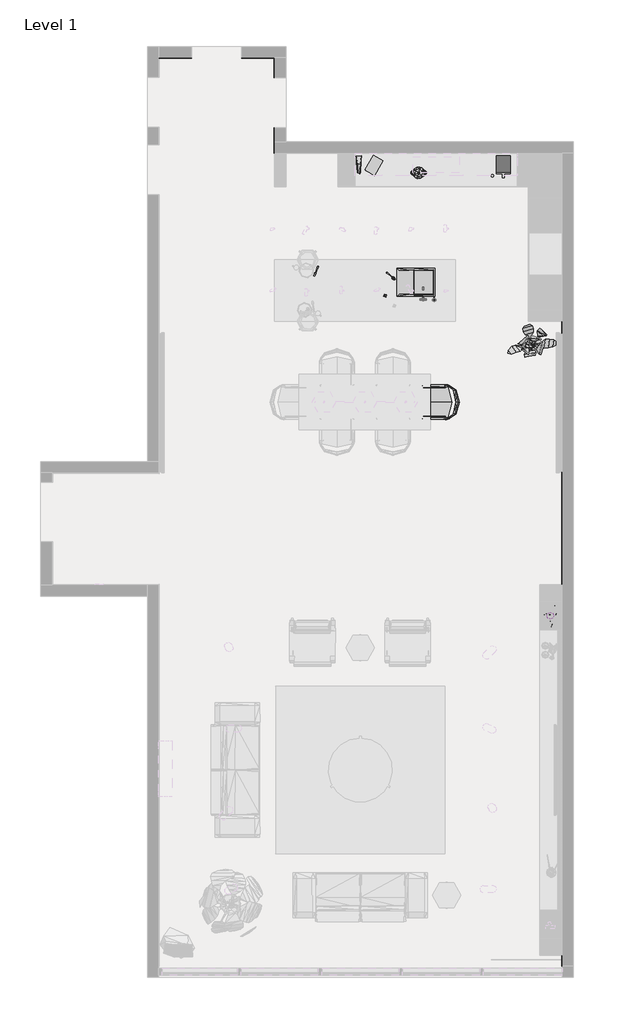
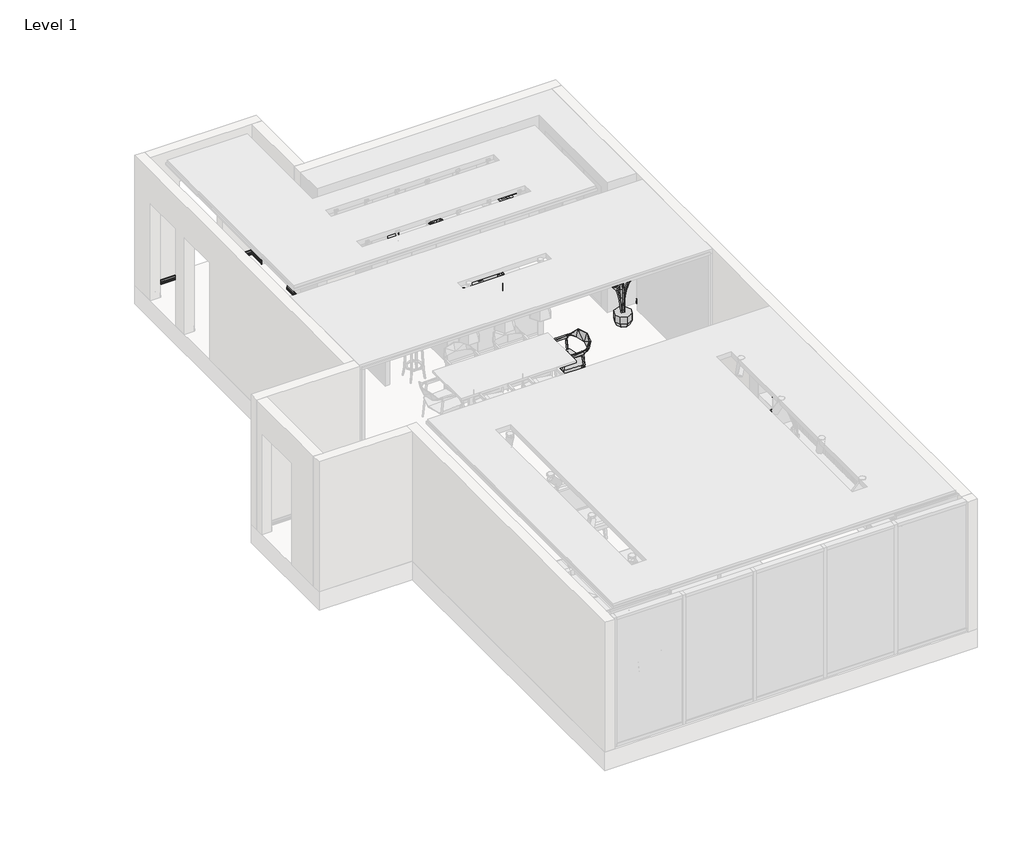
# One storey, part 4 of 4: 17 geographic elements, 3 proxies.
"""IFC4 building model written with IfcOpenShell, lengths in millimetres."""

from ifc_helpers import new_model, si_unit, point, frame, frame_2d, origin, place, context, project, spatial, polyline, circle_curve, ellipse_curve, trimmed, segment, composite_curve, outline, extrude, transform, mapped, element, save
from ifc_brep_helpers import plane_surface, cylinder_surface, revolved_surface, advanced_brep
from components import geographic_element_c0f8f7ac, geographic_element_f8921ec5, geographic_element_5908e057, geographic_element_9f73c0b1, geographic_element_5f6d6c8c, geographic_element_780d2d84, geographic_element_f51f05aa, geographic_element_e5fee6ec, enscape_assetdefinition_books_010_enscape_assetdefinition_d08a0240, enscape_assetdefinition_chair_005_enscape_assetdefinition_cb8def9a, enscape_assetdefinition_coffee_maker_007_enscape_659ea5d6, enscape_assetdefinition_cup_004_espresso_enscape_9e3265cb, enscape_assetdefinition_faucet_010_enscape_assetdefinition_639291e5, enscape_assetdefinition_kitchen_tool_002_cutting_boards_67aff8ed, enscape_assetdefinition_sink_001_enscape_assetdefinition_419a9225, enscape_assetdefinition_soap_dispenser_004_enscape_f50e4718, enscape_assetdefinition_vase_050_enscape_assetdefinition_a4bf4c07

model = new_model("IFC4")

# Units and contexts
model_context = context("Model", 3, world=origin())
ifc_project = project(units=[si_unit("LENGTHUNIT", "METRE", prefix="MILLI")], contexts=[model_context])

# Site, building, storey
site = spatial("IfcSite", under=ifc_project)
building = spatial("IfcBuilding", under=site)
storey = spatial("IfcBuildingStorey", under=building, Name="Level 1", Elevation=0.0)

# Proxies
placement = place(None, origin())
element("IfcBuildingElementProxy", 1, Name="Brick Soldier Course 2", ObjectType="Brick Soldier Course 2", at=placement, inside=storey, context=model_context, shape_type="SweptSolid", body=[
    extrude(outline(composite_curve([segment(polyline([(100.0, 10477.9525098), (100.0, 10476.9557823)]), True, "CONTINUOUS"), segment(trimmed(circle_curve(frame_2d((95.9967275, 10476.9557823)), 4.0032725), [point((100.0, 10476.9557823))], [point((95.9967275, 10472.9525098))], False, "CARTESIAN"), True, "CONTINUOUS"), segment(polyline([(95.9967275, 10472.9525098), (91.4365579, 10472.9525098)]), True, "CONTINUOUS"), segment(trimmed(circle_curve(frame_2d((91.4365579, 10474.3890677)), 1.4365579), [point((91.4365579, 10472.9525098))], [point((90.0, 10474.3890677))], False, "CARTESIAN"), True, "CONTINUOUS"), segment(polyline([(90.0, 10474.3890677), (90.0, 10475.4642363), (50.0, 10475.4642363), (50.0, 10471.9642363)]), True, "CONTINUOUS"), segment(trimmed(circle_curve(frame_2d((48.5, 10471.9642363)), 1.5), [point((50.0, 10471.9642363))], [point((48.5, 10470.4642363))], False, "CARTESIAN"), True, "CONTINUOUS"), segment(polyline([(48.5, 10470.4642363), (26.451226, 10470.4642363)]), True, "CONTINUOUS"), segment(trimmed(circle_curve(frame_2d((26.451226, 10471.9154623)), 1.451226), [point((26.451226, 10470.4642363))], [point((25.0, 10471.9154623))], False, "CARTESIAN"), True, "CONTINUOUS"), segment(polyline([(25.0, 10471.9154623), (25.0, 10472.9525098), (17.9313406, 10472.9525098), (17.9313406, 10471.6850055)]), True, "CONTINUOUS"), segment(trimmed(circle_curve(frame_2d((16.554531, 10471.6850055)), 1.3768096), [point((17.9313406, 10471.6850055))], [point((16.7363778, 10470.3202577))], False, "CARTESIAN"), True, "CONTINUOUS"), segment(trimmed(circle_curve(frame_2d((23.0672348, 10422.8075927)), 47.932589), [point((16.7363778, 10470.3202577))], [point((0.0, 10464.8246817))], True, "CARTESIAN"), True, "CONTINUOUS"), segment(polyline([(0.0, 10464.8246817), (0.0, 10477.9525098), (100.0, 10477.9525098)]), True, "CONTINUOUS")], self_intersect=False)), frame((0.0, -5909.0133336, 0.0), z_axis=(0.0, 1.0, 0.0), x_axis=(0.0, 0.0, 1.0)), (0.0, 0.0, 1.0), 14496.8),
])
element("IfcBuildingElementProxy", 2, Name="Brick Soldier Course 2", ObjectType="Brick Soldier Course 2", at=placement, inside=storey, context=model_context, shape_type="AdvancedBrep", body=[
    advanced_brep(
    [(5350.4525708, 9037.7866664, 100.0), (5350.4525708, 9037.7866664, 0.0), (5337.3247427, 9037.7866664, 0.0), (5342.8203187, 9037.7866664, 16.7363778), (5344.1850665, 9037.7866664, 17.9313406), (5345.4525708, 9037.7866664, 17.9313406), (5345.4525708, 9037.7866664, 25.0), (5344.4155233, 9037.7866664, 25.0), (5342.9642973, 9037.7866664, 26.451226), (5342.9642973, 9037.7866664, 48.5), (5344.4642973, 9037.7866664, 50.0), (5347.9642973, 9037.7866664, 50.0), (5347.9642973, 9037.7866664, 90.0), (5346.8891287, 9037.7866664, 90.0), (5345.4525708, 9037.7866664, 91.4365579), (5345.4525708, 9037.7866664, 95.9967275), (5349.4558433, 9037.7866664, 100.0), (5350.4525708, 8587.7866664, 100.0), (5349.4558433, 8587.7866664, 100.0), (5345.4525708, 8587.7866664, 95.9967275), (5345.4525708, 8587.7866664, 91.4365579), (5346.8891287, 8587.7866664, 90.0), (5347.9642973, 8587.7866664, 90.0), (5347.9642973, 8587.7866664, 50.0), (5344.4642973, 8587.7866664, 50.0), (5342.9642973, 8587.7866664, 48.5), (5342.9642973, 8587.7866664, 26.451226), (5344.4155233, 8587.7866664, 25.0), (5345.4525708, 8587.7866664, 25.0), (5345.4525708, 8587.7866664, 17.9313406), (5344.1850665, 8587.7866664, 17.9313406), (5342.8203187, 8587.7866664, 16.7363778), (5337.3247427, 8587.7866664, 0.0), (5350.4525708, 8587.7866664, 0.0)],
    [
        (0, 1),
        (1, 2),
        (2, 3, circle_curve(frame((5295.3076537, 9037.7866664, 23.0672348), z_axis=(0.0, -1.0, 0.0), x_axis=(-1.0, 0.0, 0.0)), 47.932589)),
        (3, 4, circle_curve(frame((5344.1850665, 9037.7866664, 16.554531), z_axis=(0.0, 1.0, 0.0), x_axis=(-1.0, 0.0, 0.0)), 1.3768096)),
        (4, 5),
        (5, 6),
        (6, 7),
        (7, 8, circle_curve(frame((5344.4155233, 9037.7866664, 26.451226), z_axis=(0.0, 1.0, 0.0), x_axis=(-1.0, 0.0, 0.0)), 1.451226)),
        (8, 9),
        (9, 10, circle_curve(frame((5344.4642973, 9037.7866664, 48.5), z_axis=(0.0, 1.0, 0.0), x_axis=(-1.0, 0.0, 0.0)), 1.5)),
        (10, 11),
        (11, 12),
        (12, 13),
        (13, 14, circle_curve(frame((5346.8891287, 9037.7866664, 91.4365579), z_axis=(0.0, 1.0, 0.0), x_axis=(-1.0, 0.0, 0.0)), 1.4365579)),
        (14, 15),
        (15, 16, circle_curve(frame((5349.4558433, 9037.7866664, 95.9967275), z_axis=(0.0, 1.0, 0.0), x_axis=(-1.0, 0.0, 0.0)), 4.0032725)),
        (16, 0),
        (17, 18),
        (18, 19, circle_curve(frame((5349.4558433, 8587.7866664, 95.9967275), z_axis=(0.0, -1.0, 0.0), x_axis=(-1.0, 0.0, 0.0)), 4.0032725)),
        (19, 20),
        (20, 21, circle_curve(frame((5346.8891287, 8587.7866664, 91.4365579), z_axis=(0.0, -1.0, 0.0), x_axis=(-1.0, 0.0, 0.0)), 1.4365579)),
        (21, 22),
        (22, 23),
        (23, 24),
        (24, 25, circle_curve(frame((5344.4642973, 8587.7866664, 48.5), z_axis=(0.0, -1.0, 0.0), x_axis=(-1.0, 0.0, 0.0)), 1.5)),
        (25, 26),
        (26, 27, circle_curve(frame((5344.4155233, 8587.7866664, 26.451226), z_axis=(0.0, -1.0, 0.0), x_axis=(-1.0, 0.0, 0.0)), 1.451226)),
        (27, 28),
        (28, 29),
        (29, 30),
        (30, 31, circle_curve(frame((5344.1850665, 8587.7866664, 16.554531), z_axis=(0.0, -1.0, 0.0), x_axis=(-1.0, 0.0, 0.0)), 1.3768096)),
        (31, 32, circle_curve(frame((5295.3076537, 8587.7866664, 23.0672348), z_axis=(0.0, 1.0, 0.0), x_axis=(-1.0, 0.0, 0.0)), 47.932589)),
        (32, 33),
        (33, 17),
        (0, 17),
        (33, 1),
        (32, 2),
        (31, 3),
        (30, 4),
        (29, 5),
        (28, 6),
        (27, 7),
        (26, 8),
        (25, 9),
        (24, 10),
        (23, 11),
        (22, 12),
        (21, 13),
        (20, 14),
        (19, 15),
        (18, 16),
    ],
    [
        plane_surface(frame((5250.4476036, 9037.7866664, 0.0), z_axis=(0.0, 1.0, 0.0), x_axis=(0.0, 0.0, -1.0))),
        plane_surface(frame((5250.4476036, 8587.7866664, 0.0), z_axis=(0.0, -1.0, 0.0), x_axis=(0.0, 0.0, -1.0))),
        plane_surface(frame((5350.4525708, 9037.7866664, 100.0), z_axis=(1.0, 0.0, 0.0), x_axis=(0.0, -1.0, 0.0))),
        plane_surface(frame((5350.4525708, 9037.7866664, 0.0), z_axis=(0.0, 0.0, -1.0), x_axis=(0.0, -1.0, 0.0))),
        revolved_surface(polyline([(5247.3750647, 8587.7866664, 23.0672348), (5247.3750647, 9037.7866664, 23.0672348)]), (5295.3076537, 9037.7866664, 23.0672348), (0.0, -1.0, 0.0)),
        cylinder_surface(frame((5344.1850665, 9037.7866664, 16.554531), z_axis=(0.0, 1.0, 0.0), x_axis=(-1.0, 0.0, 0.0)), 1.3768096),
        plane_surface(frame((5344.1850665, 9037.7866664, 17.9313406), z_axis=(0.0, 0.0, 1.0), x_axis=(0.0, -1.0, 0.0))),
        plane_surface(frame((5345.4525708, 9037.7866664, 17.9313406), z_axis=(-1.0, 0.0, 0.0), x_axis=(0.0, -1.0, 0.0))),
        plane_surface(frame((5345.4525708, 9037.7866664, 25.0), z_axis=(0.0, 0.0, -1.0), x_axis=(0.0, -1.0, 0.0))),
        cylinder_surface(frame((5344.4155233, 9037.7866664, 26.451226), z_axis=(0.0, 1.0, 0.0), x_axis=(-1.0, 0.0, 0.0)), 1.451226),
        plane_surface(frame((5342.9642973, 9037.7866664, 26.451226), z_axis=(-1.0, 0.0, 0.0), x_axis=(0.0, -1.0, 0.0))),
        cylinder_surface(frame((5344.4642973, 9037.7866664, 48.5), z_axis=(0.0, 1.0, 0.0), x_axis=(-1.0, 0.0, 0.0)), 1.5),
        plane_surface(frame((5344.4642973, 9037.7866664, 50.0), z_axis=(0.0, 0.0, 1.0), x_axis=(0.0, -1.0, 0.0))),
        plane_surface(frame((5347.9642973, 9037.7866664, 50.0), z_axis=(-1.0, 0.0, 0.0), x_axis=(0.0, -1.0, 0.0))),
        plane_surface(frame((5347.9642973, 9037.7866664, 90.0), z_axis=(0.0, 0.0, -1.0), x_axis=(0.0, -1.0, 0.0))),
        cylinder_surface(frame((5346.8891287, 9037.7866664, 91.4365579), z_axis=(0.0, 1.0, 0.0), x_axis=(-1.0, 0.0, 0.0)), 1.4365579),
        plane_surface(frame((5345.4525708, 9037.7866664, 91.4365579), z_axis=(-1.0, 0.0, 0.0), x_axis=(0.0, -1.0, 0.0))),
        cylinder_surface(frame((5349.4558433, 9037.7866664, 95.9967275), z_axis=(0.0, 1.0, 0.0), x_axis=(-1.0, 0.0, 0.0)), 4.0032725),
        plane_surface(frame((5349.4558433, 9037.7866664, 100.0), z_axis=(0.0, 0.0, 1.0), x_axis=(0.0, -1.0, 0.0))),
    ],
    [
        (0, [[1, 2, 3, 4, 5, 6, 7, 8, 9, 10, 11, 12, 13, 14, 15, 16, 17]]),
        (1, [[18, 19, 20, 21, 22, 23, 24, 25, 26, 27, 28, 29, 30, 31, 32, 33, 34]]),
        (2, [[-1, 35, -34, 36]]),
        (3, [[-2, -36, -33, 37]]),
        (4, [[-3, -37, -32, 38]]),
        (5, [[-4, -38, -31, 39]]),
        (6, [[-5, -39, -30, 40]]),
        (7, [[-6, -40, -29, 41]]),
        (8, [[-7, -41, -28, 42]]),
        (9, [[-8, -42, -27, 43]]),
        (10, [[-9, -43, -26, 44]]),
        (11, [[-10, -44, -25, 45]]),
        (12, [[-11, -45, -24, 46]]),
        (13, [[-12, -46, -23, 47]]),
        (14, [[-13, -47, -22, 48]]),
        (15, [[-14, -48, -21, 49]]),
        (16, [[-15, -49, -20, 50]]),
        (17, [[-16, -50, -19, 51]]),
        (18, [[-17, -51, -18, -35]]),
    ],
),
    advanced_brep(
    [(5350.4525708, 10287.7866664, 100.0), (5350.4525708, 10287.7866664, 0.0), (5337.3247427, 10274.6588383, 0.0), (5342.8203187, 10280.1544144, 16.7363778), (5344.1850665, 10281.5191621, 17.9313406), (5345.4525708, 10282.7866664, 17.9313406), (5345.4525708, 10282.7866664, 25.0), (5344.4155233, 10281.749619, 25.0), (5342.9642973, 10280.298393, 26.451226), (5342.9642973, 10280.298393, 48.5), (5344.4642973, 10281.798393, 50.0), (5347.9642973, 10285.298393, 50.0), (5347.9642973, 10285.298393, 90.0), (5346.8891287, 10284.2232244, 90.0), (5345.4525708, 10282.7866664, 91.4365579), (5345.4525708, 10282.7866664, 95.9967275), (5349.4558433, 10286.7899389, 100.0), (5350.4525708, 9927.7866664, 100.0), (5349.4558433, 9927.7866664, 100.0), (5345.4525708, 9927.7866664, 95.9967275), (5345.4525708, 9927.7866664, 91.4365579), (5346.8891287, 9927.7866664, 90.0), (5347.9642973, 9927.7866664, 90.0), (5347.9642973, 9927.7866664, 50.0), (5344.4642973, 9927.7866664, 50.0), (5342.9642973, 9927.7866664, 48.5), (5342.9642973, 9927.7866664, 26.451226), (5344.4155233, 9927.7866664, 25.0), (5345.4525708, 9927.7866664, 25.0), (5345.4525708, 9927.7866664, 17.9313406), (5344.1850665, 9927.7866664, 17.9313406), (5342.8203187, 9927.7866664, 16.7363778), (5337.3247427, 9927.7866664, 0.0), (5350.4525708, 9927.7866664, 0.0)],
    [
        (0, 1),
        (1, 2),
        (2, 3, ellipse_curve(frame((5295.3076537, 10232.6417494, 23.0672348), z_axis=(0.7071067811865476, -0.7071067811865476, 0.0), x_axis=(-0.7071067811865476, -0.7071067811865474, 0.0)), 67.7869174, 47.932589)),
        (3, 4, ellipse_curve(frame((5344.1850665, 10281.5191621, 16.554531), z_axis=(-0.7071067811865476, 0.7071067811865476, 0.0), x_axis=(0.7071067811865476, 0.7071067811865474, 0.0)), 1.9471028, 1.3768096)),
        (4, 5),
        (5, 6),
        (6, 7),
        (7, 8, ellipse_curve(frame((5344.4155233, 10281.749619, 26.451226), z_axis=(-0.7071067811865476, 0.7071067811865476, 0.0), x_axis=(0.7071067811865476, 0.7071067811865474, 0.0)), 2.0523435, 1.451226)),
        (8, 9),
        (9, 10, ellipse_curve(frame((5344.4642973, 10281.798393, 48.5), z_axis=(-0.7071067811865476, 0.7071067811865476, 0.0), x_axis=(0.7071067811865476, 0.7071067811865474, 0.0)), 2.1213203, 1.5)),
        (10, 11),
        (11, 12),
        (12, 13),
        (13, 14, ellipse_curve(frame((5346.8891287, 10284.2232244, 91.4365579), z_axis=(-0.7071067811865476, 0.7071067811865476, 0.0), x_axis=(0.7071067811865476, 0.7071067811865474, 0.0)), 2.0315997, 1.4365579)),
        (14, 15),
        (15, 16, ellipse_curve(frame((5349.4558433, 10286.7899389, 95.9967275), z_axis=(-0.7071067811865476, 0.7071067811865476, 0.0), x_axis=(0.7071067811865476, 0.7071067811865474, 0.0)), 5.6614823, 4.0032725)),
        (16, 0),
        (17, 18),
        (18, 19, circle_curve(frame((5349.4558433, 9927.7866664, 95.9967275), z_axis=(0.0, -1.0, 0.0), x_axis=(-1.0, 0.0, 0.0)), 4.0032725)),
        (19, 20),
        (20, 21, circle_curve(frame((5346.8891287, 9927.7866664, 91.4365579), z_axis=(0.0, -1.0, 0.0), x_axis=(-1.0, 0.0, 0.0)), 1.4365579)),
        (21, 22),
        (22, 23),
        (23, 24),
        (24, 25, circle_curve(frame((5344.4642973, 9927.7866664, 48.5), z_axis=(0.0, -1.0, 0.0), x_axis=(-1.0, 0.0, 0.0)), 1.5)),
        (25, 26),
        (26, 27, circle_curve(frame((5344.4155233, 9927.7866664, 26.451226), z_axis=(0.0, -1.0, 0.0), x_axis=(-1.0, 0.0, 0.0)), 1.451226)),
        (27, 28),
        (28, 29),
        (29, 30),
        (30, 31, circle_curve(frame((5344.1850665, 9927.7866664, 16.554531), z_axis=(0.0, -1.0, 0.0), x_axis=(-1.0, 0.0, 0.0)), 1.3768096)),
        (31, 32, circle_curve(frame((5295.3076537, 9927.7866664, 23.0672348), z_axis=(0.0, 1.0, 0.0), x_axis=(-1.0, 0.0, 0.0)), 47.932589)),
        (32, 33),
        (33, 17),
        (0, 17),
        (33, 1),
        (32, 2),
        (31, 3),
        (30, 4),
        (29, 5),
        (28, 6),
        (27, 7),
        (26, 8),
        (25, 9),
        (24, 10),
        (23, 11),
        (22, 12),
        (21, 13),
        (20, 14),
        (19, 15),
        (18, 16),
    ],
    [
        plane_surface(frame((5350.4525708, 10287.7866664, 304.8), z_axis=(-0.7071067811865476, 0.7071067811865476, 0.0), x_axis=(-0.7071067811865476, -0.7071067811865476, 0.0))),
        plane_surface(frame((5250.4476036, 9927.7866664, 0.0), z_axis=(0.0, -1.0, 0.0), x_axis=(0.0, 0.0, -1.0))),
        plane_surface(frame((5350.4525708, 10287.7866664, 100.0), z_axis=(1.0, 0.0, 0.0), x_axis=(0.0, -1.0, 0.0))),
        plane_surface(frame((5350.4525708, 10287.7866664, 0.0), z_axis=(0.0, 0.0, -1.0), x_axis=(0.0, -1.0, 0.0))),
        revolved_surface(polyline([(5247.3750647, 9927.7866664, 23.0672348), (5247.3750647, 10280.574338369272, 23.0672348)]), (5295.3076537, 10287.7866664, 23.0672348), (0.0, -1.0, 0.0)),
        cylinder_surface(frame((5344.1850665, 10287.7866664, 16.554531), z_axis=(0.0, 1.0, 0.0), x_axis=(-1.0, 0.0, 0.0)), 1.3768096),
        plane_surface(frame((5344.1850665, 10281.5191621, 17.9313406), z_axis=(0.0, 0.0, 1.0), x_axis=(0.0, -1.0, 0.0))),
        plane_surface(frame((5345.4525708, 10282.7866664, 17.9313406), z_axis=(-1.0, 0.0, 0.0), x_axis=(0.0, -1.0, 0.0))),
        plane_surface(frame((5345.4525708, 10282.7866664, 25.0), z_axis=(0.0, 0.0, -1.0), x_axis=(0.0, -1.0, 0.0))),
        cylinder_surface(frame((5344.4155233, 10287.7866664, 26.451226), z_axis=(0.0, 1.0, 0.0), x_axis=(-1.0, 0.0, 0.0)), 1.451226),
        plane_surface(frame((5342.9642973, 10280.298393, 26.451226), z_axis=(-1.0, 0.0, 0.0), x_axis=(0.0, -1.0, 0.0))),
        cylinder_surface(frame((5344.4642973, 10287.7866664, 48.5), z_axis=(0.0, 1.0, 0.0), x_axis=(-1.0, 0.0, 0.0)), 1.5),
        plane_surface(frame((5344.4642973, 10281.798393, 50.0), z_axis=(0.0, 0.0, 1.0), x_axis=(0.0, -1.0, 0.0))),
        plane_surface(frame((5347.9642973, 10285.298393, 50.0), z_axis=(-1.0, 0.0, 0.0), x_axis=(0.0, -1.0, 0.0))),
        plane_surface(frame((5347.9642973, 10285.298393, 90.0), z_axis=(0.0, 0.0, -1.0), x_axis=(0.0, -1.0, 0.0))),
        cylinder_surface(frame((5346.8891287, 10287.7866664, 91.4365579), z_axis=(0.0, 1.0, 0.0), x_axis=(-1.0, 0.0, 0.0)), 1.4365579),
        plane_surface(frame((5345.4525708, 10282.7866664, 91.4365579), z_axis=(-1.0, 0.0, 0.0), x_axis=(0.0, -1.0, 0.0))),
        cylinder_surface(frame((5349.4558433, 10287.7866664, 95.9967275), z_axis=(0.0, 1.0, 0.0), x_axis=(-1.0, 0.0, 0.0)), 4.0032725),
        plane_surface(frame((5349.4558433, 10286.7899389, 100.0), z_axis=(0.0, 0.0, 1.0), x_axis=(0.0, -1.0, 0.0))),
    ],
    [
        (0, [[1, 2, 3, 4, 5, 6, 7, 8, 9, 10, 11, 12, 13, 14, 15, 16, 17]]),
        (1, [[18, 19, 20, 21, 22, 23, 24, 25, 26, 27, 28, 29, 30, 31, 32, 33, 34]]),
        (2, [[-1, 35, -34, 36]]),
        (3, [[-2, -36, -33, 37]]),
        (4, [[-3, -37, -32, 38]]),
        (5, [[-4, -38, -31, 39]]),
        (6, [[-5, -39, -30, 40]]),
        (7, [[-6, -40, -29, 41]]),
        (8, [[-7, -41, -28, 42]]),
        (9, [[-8, -42, -27, 43]]),
        (10, [[-9, -43, -26, 44]]),
        (11, [[-10, -44, -25, 45]]),
        (12, [[-11, -45, -24, 46]]),
        (13, [[-12, -46, -23, 47]]),
        (14, [[-13, -47, -22, 48]]),
        (15, [[-14, -48, -21, 49]]),
        (16, [[-15, -49, -20, 50]]),
        (17, [[-16, -50, -19, 51]]),
        (18, [[-17, -51, -18, -35]]),
    ],
),
])
element("IfcBuildingElementProxy", 3, Name="Brick Soldier Course 2", ObjectType="Brick Soldier Course 2", at=placement, inside=storey, context=model_context, shape_type="AdvancedBrep", body=[
    advanced_brep(
    [(4759.2025403, 10287.7866664, 100.0), (4759.2025403, 10287.7866664, 0.0), (4759.2025403, 10274.6588383, 0.0), (4759.2025403, 10280.1544144, 16.7363778), (4759.2025403, 10281.5191621, 17.9313406), (4759.2025403, 10282.7866664, 17.9313406), (4759.2025403, 10282.7866664, 25.0), (4759.2025403, 10281.749619, 25.0), (4759.2025403, 10280.298393, 26.451226), (4759.2025403, 10280.298393, 48.5), (4759.2025403, 10281.798393, 50.0), (4759.2025403, 10285.298393, 50.0), (4759.2025403, 10285.298393, 90.0), (4759.2025403, 10284.2232244, 90.0), (4759.2025403, 10282.7866664, 91.4365579), (4759.2025403, 10282.7866664, 95.9967275), (4759.2025403, 10286.7899389, 100.0), (5350.4525708, 10287.7866664, 100.0), (5349.4558433, 10286.7899389, 100.0), (5345.4525708, 10282.7866664, 95.9967275), (5345.4525708, 10282.7866664, 91.4365579), (5346.8891287, 10284.2232244, 90.0), (5347.9642973, 10285.298393, 90.0), (5347.9642973, 10285.298393, 50.0), (5344.4642973, 10281.798393, 50.0), (5342.9642973, 10280.298393, 48.5), (5342.9642973, 10280.298393, 26.451226), (5344.4155233, 10281.749619, 25.0), (5345.4525708, 10282.7866664, 25.0), (5345.4525708, 10282.7866664, 17.9313406), (5344.1850665, 10281.5191621, 17.9313406), (5342.8203187, 10280.1544144, 16.7363778), (5337.3247427, 10274.6588383, 0.0), (5350.4525708, 10287.7866664, 0.0)],
    [
        (0, 1),
        (1, 2),
        (2, 3, circle_curve(frame((4759.2025403, 10232.6417494, 23.0672348), z_axis=(1.0, 0.0, 0.0), x_axis=(0.0, -1.0, 0.0)), 47.932589)),
        (3, 4, circle_curve(frame((4759.2025403, 10281.5191621, 16.554531), z_axis=(-1.0, 0.0, 0.0), x_axis=(0.0, -1.0, 0.0)), 1.3768096)),
        (4, 5),
        (5, 6),
        (6, 7),
        (7, 8, circle_curve(frame((4759.2025403, 10281.749619, 26.451226), z_axis=(-1.0, 0.0, 0.0), x_axis=(0.0, -1.0, 0.0)), 1.451226)),
        (8, 9),
        (9, 10, circle_curve(frame((4759.2025403, 10281.798393, 48.5), z_axis=(-1.0, 0.0, 0.0), x_axis=(0.0, -1.0, 0.0)), 1.5)),
        (10, 11),
        (11, 12),
        (12, 13),
        (13, 14, circle_curve(frame((4759.2025403, 10284.2232244, 91.4365579), z_axis=(-1.0, 0.0, 0.0), x_axis=(0.0, -1.0, 0.0)), 1.4365579)),
        (14, 15),
        (15, 16, circle_curve(frame((4759.2025403, 10286.7899389, 95.9967275), z_axis=(-1.0, 0.0, 0.0), x_axis=(0.0, -1.0, 0.0)), 4.0032725)),
        (16, 0),
        (17, 18),
        (18, 19, ellipse_curve(frame((5349.4558433, 10286.7899389, 95.9967275), z_axis=(0.7071067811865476, -0.7071067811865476, 0.0), x_axis=(-0.7071067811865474, -0.7071067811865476, 0.0)), 5.6614823, 4.0032725)),
        (19, 20),
        (20, 21, ellipse_curve(frame((5346.8891287, 10284.2232244, 91.4365579), z_axis=(0.7071067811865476, -0.7071067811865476, 0.0), x_axis=(-0.7071067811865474, -0.7071067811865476, 0.0)), 2.0315997, 1.4365579)),
        (21, 22),
        (22, 23),
        (23, 24),
        (24, 25, ellipse_curve(frame((5344.4642973, 10281.798393, 48.5), z_axis=(0.7071067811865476, -0.7071067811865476, 0.0), x_axis=(-0.7071067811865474, -0.7071067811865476, 0.0)), 2.1213203, 1.5)),
        (25, 26),
        (26, 27, ellipse_curve(frame((5344.4155233, 10281.749619, 26.451226), z_axis=(0.7071067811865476, -0.7071067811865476, 0.0), x_axis=(-0.7071067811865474, -0.7071067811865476, 0.0)), 2.0523435, 1.451226)),
        (27, 28),
        (28, 29),
        (29, 30),
        (30, 31, ellipse_curve(frame((5344.1850665, 10281.5191621, 16.554531), z_axis=(0.7071067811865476, -0.7071067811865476, 0.0), x_axis=(-0.7071067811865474, -0.7071067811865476, 0.0)), 1.9471028, 1.3768096)),
        (31, 32, ellipse_curve(frame((5295.3076537, 10232.6417494, 23.0672348), z_axis=(-0.7071067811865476, 0.7071067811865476, 0.0), x_axis=(0.7071067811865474, 0.7071067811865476, 0.0)), 67.7869174, 47.932589)),
        (32, 33),
        (33, 17),
        (0, 17),
        (33, 1),
        (32, 2),
        (31, 3),
        (30, 4),
        (29, 5),
        (28, 6),
        (27, 7),
        (26, 8),
        (25, 9),
        (24, 10),
        (23, 11),
        (22, 12),
        (21, 13),
        (20, 14),
        (19, 15),
        (18, 16),
    ],
    [
        plane_surface(frame((4759.2025403, 10287.7866664, -100.0049672), z_axis=(-1.0, 0.0, 0.0), x_axis=(0.0, 1.0, 0.0))),
        plane_surface(frame((5350.4525708, 10287.7866664, 304.8), z_axis=(0.7071067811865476, -0.7071067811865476, 0.0), x_axis=(-0.7071067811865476, -0.7071067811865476, 0.0))),
        plane_surface(frame((4759.2025403, 10287.7866664, 100.0), z_axis=(0.0, 1.0, 0.0), x_axis=(1.0, 0.0, 0.0))),
        plane_surface(frame((4759.2025403, 10287.7866664, 0.0), z_axis=(0.0, 0.0, -1.0), x_axis=(1.0, 0.0, 0.0))),
        revolved_surface(polyline([(5343.240242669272, 10184.7091604, 23.0672348), (4759.2025403, 10184.7091604, 23.0672348)]), (4759.2025403, 10232.6417494, 23.0672348), (1.0, 0.0, 0.0)),
        cylinder_surface(frame((4759.2025403, 10281.5191621, 16.554531), z_axis=(-1.0, 0.0, 0.0), x_axis=(0.0, -1.0, 0.0)), 1.3768096),
        plane_surface(frame((4759.2025403, 10281.5191621, 17.9313406), z_axis=(0.0, 0.0, 1.0), x_axis=(1.0, 0.0, 0.0))),
        plane_surface(frame((4759.2025403, 10282.7866664, 17.9313406), z_axis=(0.0, -1.0, 0.0), x_axis=(1.0, 0.0, 0.0))),
        plane_surface(frame((4759.2025403, 10282.7866664, 25.0), z_axis=(0.0, 0.0, -1.0), x_axis=(1.0, 0.0, 0.0))),
        cylinder_surface(frame((4759.2025403, 10281.749619, 26.451226), z_axis=(-1.0, 0.0, 0.0), x_axis=(0.0, -1.0, 0.0)), 1.451226),
        plane_surface(frame((4759.2025403, 10280.298393, 26.451226), z_axis=(0.0, -1.0, 0.0), x_axis=(1.0, 0.0, 0.0))),
        cylinder_surface(frame((4759.2025403, 10281.798393, 48.5), z_axis=(-1.0, 0.0, 0.0), x_axis=(0.0, -1.0, 0.0)), 1.5),
        plane_surface(frame((4759.2025403, 10281.798393, 50.0), z_axis=(0.0, 0.0, 1.0), x_axis=(1.0, 0.0, 0.0))),
        plane_surface(frame((4759.2025403, 10285.298393, 50.0), z_axis=(0.0, -1.0, 0.0), x_axis=(1.0, 0.0, 0.0))),
        plane_surface(frame((4759.2025403, 10285.298393, 90.0), z_axis=(0.0, 0.0, -1.0), x_axis=(1.0, 0.0, 0.0))),
        cylinder_surface(frame((4759.2025403, 10284.2232244, 91.4365579), z_axis=(-1.0, 0.0, 0.0), x_axis=(0.0, -1.0, 0.0)), 1.4365579),
        plane_surface(frame((4759.2025403, 10282.7866664, 91.4365579), z_axis=(0.0, -1.0, 0.0), x_axis=(1.0, 0.0, 0.0))),
        cylinder_surface(frame((4759.2025403, 10286.7899389, 95.9967275), z_axis=(-1.0, 0.0, 0.0), x_axis=(0.0, -1.0, 0.0)), 4.0032725),
        plane_surface(frame((4759.2025403, 10286.7899389, 100.0), z_axis=(0.0, 0.0, 1.0), x_axis=(1.0, 0.0, 0.0))),
    ],
    [
        (0, [[1, 2, 3, 4, 5, 6, 7, 8, 9, 10, 11, 12, 13, 14, 15, 16, 17]]),
        (1, [[18, 19, 20, 21, 22, 23, 24, 25, 26, 27, 28, 29, 30, 31, 32, 33, 34]]),
        (2, [[-1, 35, -34, 36]]),
        (3, [[-2, -36, -33, 37]]),
        (4, [[-3, -37, -32, 38]]),
        (5, [[-4, -38, -31, 39]]),
        (6, [[-5, -39, -30, 40]]),
        (7, [[-6, -40, -29, 41]]),
        (8, [[-7, -41, -28, 42]]),
        (9, [[-8, -42, -27, 43]]),
        (10, [[-9, -43, -26, 44]]),
        (11, [[-10, -44, -25, 45]]),
        (12, [[-11, -45, -24, 46]]),
        (13, [[-12, -46, -23, 47]]),
        (14, [[-13, -47, -22, 48]]),
        (15, [[-14, -48, -21, 49]]),
        (16, [[-15, -49, -20, 50]]),
        (17, [[-16, -50, -19, 51]]),
        (18, [[-17, -51, -18, -35]]),
    ],
),
    advanced_brep(
    [(3277.9525098, 10287.7866664, 100.0), (3277.9525098, 10287.7866664, 0.0), (3291.0803378, 10274.6588383, 0.0), (3285.5847618, 10280.1544144, 16.7363778), (3284.220014, 10281.5191621, 17.9313406), (3282.9525098, 10282.7866664, 17.9313406), (3282.9525098, 10282.7866664, 25.0), (3283.9895572, 10281.749619, 25.0), (3285.4407832, 10280.298393, 26.451226), (3285.4407832, 10280.298393, 48.5), (3283.9407832, 10281.798393, 50.0), (3280.4407832, 10285.298393, 50.0), (3280.4407832, 10285.298393, 90.0), (3281.5159518, 10284.2232244, 90.0), (3282.9525098, 10282.7866664, 91.4365579), (3282.9525098, 10282.7866664, 95.9967275), (3278.9492372, 10286.7899389, 100.0), (3869.2025403, 10287.7866664, 100.0), (3869.2025403, 10286.7899389, 100.0), (3869.2025403, 10282.7866664, 95.9967275), (3869.2025403, 10282.7866664, 91.4365579), (3869.2025403, 10284.2232244, 90.0), (3869.2025403, 10285.298393, 90.0), (3869.2025403, 10285.298393, 50.0), (3869.2025403, 10281.798393, 50.0), (3869.2025403, 10280.298393, 48.5), (3869.2025403, 10280.298393, 26.451226), (3869.2025403, 10281.749619, 25.0), (3869.2025403, 10282.7866664, 25.0), (3869.2025403, 10282.7866664, 17.9313406), (3869.2025403, 10281.5191621, 17.9313406), (3869.2025403, 10280.1544144, 16.7363778), (3869.2025403, 10274.6588383, 0.0), (3869.2025403, 10287.7866664, 0.0)],
    [
        (0, 1),
        (1, 2),
        (2, 3, ellipse_curve(frame((3333.0974268, 10232.6417494, 23.0672348), z_axis=(0.7071067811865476, 0.7071067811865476, 0.0), x_axis=(0.7071067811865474, -0.7071067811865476, 0.0)), 67.7869174, 47.932589)),
        (3, 4, ellipse_curve(frame((3284.220014, 10281.5191621, 16.554531), z_axis=(-0.7071067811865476, -0.7071067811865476, 0.0), x_axis=(-0.7071067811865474, 0.7071067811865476, 0.0)), 1.9471028, 1.3768096)),
        (4, 5),
        (5, 6),
        (6, 7),
        (7, 8, ellipse_curve(frame((3283.9895572, 10281.749619, 26.451226), z_axis=(-0.7071067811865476, -0.7071067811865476, 0.0), x_axis=(-0.7071067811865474, 0.7071067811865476, 0.0)), 2.0523435, 1.451226)),
        (8, 9),
        (9, 10, ellipse_curve(frame((3283.9407832, 10281.798393, 48.5), z_axis=(-0.7071067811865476, -0.7071067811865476, 0.0), x_axis=(-0.7071067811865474, 0.7071067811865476, 0.0)), 2.1213203, 1.5)),
        (10, 11),
        (11, 12),
        (12, 13),
        (13, 14, ellipse_curve(frame((3281.5159518, 10284.2232244, 91.4365579), z_axis=(-0.7071067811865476, -0.7071067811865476, 0.0), x_axis=(-0.7071067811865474, 0.7071067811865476, 0.0)), 2.0315997, 1.4365579)),
        (14, 15),
        (15, 16, ellipse_curve(frame((3278.9492372, 10286.7899389, 95.9967275), z_axis=(-0.7071067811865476, -0.7071067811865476, 0.0), x_axis=(-0.7071067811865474, 0.7071067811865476, 0.0)), 5.6614823, 4.0032725)),
        (16, 0),
        (17, 18),
        (18, 19, circle_curve(frame((3869.2025403, 10286.7899389, 95.9967275), z_axis=(1.0, 0.0, 0.0), x_axis=(0.0, -1.0, 0.0)), 4.0032725)),
        (19, 20),
        (20, 21, circle_curve(frame((3869.2025403, 10284.2232244, 91.4365579), z_axis=(1.0, 0.0, 0.0), x_axis=(0.0, -1.0, 0.0)), 1.4365579)),
        (21, 22),
        (22, 23),
        (23, 24),
        (24, 25, circle_curve(frame((3869.2025403, 10281.798393, 48.5), z_axis=(1.0, 0.0, 0.0), x_axis=(0.0, -1.0, 0.0)), 1.5)),
        (25, 26),
        (26, 27, circle_curve(frame((3869.2025403, 10281.749619, 26.451226), z_axis=(1.0, 0.0, 0.0), x_axis=(0.0, -1.0, 0.0)), 1.451226)),
        (27, 28),
        (28, 29),
        (29, 30),
        (30, 31, circle_curve(frame((3869.2025403, 10281.5191621, 16.554531), z_axis=(1.0, 0.0, 0.0), x_axis=(0.0, -1.0, 0.0)), 1.3768096)),
        (31, 32, circle_curve(frame((3869.2025403, 10232.6417494, 23.0672348), z_axis=(-1.0, 0.0, 0.0), x_axis=(0.0, -1.0, 0.0)), 47.932589)),
        (32, 33),
        (33, 17),
        (0, 17),
        (33, 1),
        (32, 2),
        (31, 3),
        (30, 4),
        (29, 5),
        (28, 6),
        (27, 7),
        (26, 8),
        (25, 9),
        (24, 10),
        (23, 11),
        (22, 12),
        (21, 13),
        (20, 14),
        (19, 15),
        (18, 16),
    ],
    [
        plane_surface(frame((3277.9525098, 10287.7866664, 304.8), z_axis=(-0.7071067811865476, -0.7071067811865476, 0.0), x_axis=(0.7071067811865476, -0.7071067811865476, 0.0))),
        plane_surface(frame((3869.2025403, 10287.7866664, -100.0049672), z_axis=(1.0, 0.0, 0.0), x_axis=(0.0, 1.0, 0.0))),
        plane_surface(frame((3277.9525098, 10287.7866664, 100.0), z_axis=(0.0, 1.0, 0.0), x_axis=(1.0, 0.0, 0.0))),
        plane_surface(frame((3277.9525098, 10287.7866664, 0.0), z_axis=(0.0, 0.0, -1.0), x_axis=(1.0, 0.0, 0.0))),
        revolved_surface(polyline([(3869.2025403, 10184.7091604, 23.0672348), (3285.1648378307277, 10184.7091604, 23.0672348)]), (3277.9525098, 10232.6417494, 23.0672348), (1.0, 0.0, 0.0)),
        cylinder_surface(frame((3277.9525098, 10281.5191621, 16.554531), z_axis=(-1.0, 0.0, 0.0), x_axis=(0.0, -1.0, 0.0)), 1.3768096),
        plane_surface(frame((3284.220014, 10281.5191621, 17.9313406), z_axis=(0.0, 0.0, 1.0), x_axis=(1.0, 0.0, 0.0))),
        plane_surface(frame((3282.9525098, 10282.7866664, 17.9313406), z_axis=(0.0, -1.0, 0.0), x_axis=(1.0, 0.0, 0.0))),
        plane_surface(frame((3282.9525098, 10282.7866664, 25.0), z_axis=(0.0, 0.0, -1.0), x_axis=(1.0, 0.0, 0.0))),
        cylinder_surface(frame((3277.9525098, 10281.749619, 26.451226), z_axis=(-1.0, 0.0, 0.0), x_axis=(0.0, -1.0, 0.0)), 1.451226),
        plane_surface(frame((3285.4407832, 10280.298393, 26.451226), z_axis=(0.0, -1.0, 0.0), x_axis=(1.0, 0.0, 0.0))),
        cylinder_surface(frame((3277.9525098, 10281.798393, 48.5), z_axis=(-1.0, 0.0, 0.0), x_axis=(0.0, -1.0, 0.0)), 1.5),
        plane_surface(frame((3283.9407832, 10281.798393, 50.0), z_axis=(0.0, 0.0, 1.0), x_axis=(1.0, 0.0, 0.0))),
        plane_surface(frame((3280.4407832, 10285.298393, 50.0), z_axis=(0.0, -1.0, 0.0), x_axis=(1.0, 0.0, 0.0))),
        plane_surface(frame((3280.4407832, 10285.298393, 90.0), z_axis=(0.0, 0.0, -1.0), x_axis=(1.0, 0.0, 0.0))),
        cylinder_surface(frame((3277.9525098, 10284.2232244, 91.4365579), z_axis=(-1.0, 0.0, 0.0), x_axis=(0.0, -1.0, 0.0)), 1.4365579),
        plane_surface(frame((3282.9525098, 10282.7866664, 91.4365579), z_axis=(0.0, -1.0, 0.0), x_axis=(1.0, 0.0, 0.0))),
        cylinder_surface(frame((3277.9525098, 10286.7899389, 95.9967275), z_axis=(-1.0, 0.0, 0.0), x_axis=(0.0, -1.0, 0.0)), 4.0032725),
        plane_surface(frame((3278.9492372, 10286.7899389, 100.0), z_axis=(0.0, 0.0, 1.0), x_axis=(1.0, 0.0, 0.0))),
    ],
    [
        (0, [[1, 2, 3, 4, 5, 6, 7, 8, 9, 10, 11, 12, 13, 14, 15, 16, 17]]),
        (1, [[18, 19, 20, 21, 22, 23, 24, 25, 26, 27, 28, 29, 30, 31, 32, 33, 34]]),
        (2, [[-1, 35, -34, 36]]),
        (3, [[-2, -36, -33, 37]]),
        (4, [[-3, -37, -32, 38]]),
        (5, [[-4, -38, -31, 39]]),
        (6, [[-5, -39, -30, 40]]),
        (7, [[-6, -40, -29, 41]]),
        (8, [[-7, -41, -28, 42]]),
        (9, [[-8, -42, -27, 43]]),
        (10, [[-9, -43, -26, 44]]),
        (11, [[-10, -44, -25, 45]]),
        (12, [[-11, -45, -24, 46]]),
        (13, [[-12, -46, -23, 47]]),
        (14, [[-13, -47, -22, 48]]),
        (15, [[-14, -48, -21, 49]]),
        (16, [[-15, -49, -20, 50]]),
        (17, [[-16, -50, -19, 51]]),
        (18, [[-17, -51, -18, -35]]),
    ],
),
])

# Geographic elements
geographic_element_shape = geographic_element_c0f8f7ac(model_context)
element("IfcGeographicElement", 4, ObjectType="Enscape AssetDefinition - Kitchen Tool 012 Stew Pot : Enscape AssetDefinition - Kitchen Tool 012 Stew Pot", at=placement, inside=storey, context=model_context, shape_type="MappedRepresentation", body=[
    mapped(geographic_element_shape, transform((7918.5275467, 8235.7841729, 949.5), x_axis=(0.0, 1.0, 0.0), y_axis=(-1.0, 0.0, 0.0), z_axis=(0.0, 0.0, 1.0))),
])
geographic_element_2_shape = geographic_element_f8921ec5(model_context)
element("IfcGeographicElement", 5, ObjectType="Enscape AssetDefinition - Kitchen Tool 015 Knife Block : Enscape AssetDefinition - Kitchen Tool 015 Knife Block", at=placement, inside=storey, context=model_context, shape_type="MappedRepresentation", body=[
    mapped(geographic_element_2_shape, transform((6850.4525708, 8387.7866664, 900.0), x_axis=(-1.0, 0.0, 0.0), y_axis=(0.0, -1.0, 0.0), z_axis=(0.0, 0.0, 1.0))),
])
geographic_element_3_shape = geographic_element_5908e057(model_context)
element("IfcGeographicElement", 6, ObjectType="Enscape AssetDefinition - Cutlery 001 Fork : Enscape AssetDefinition - Cutlery 001 Fork", at=placement, inside=storey, context=model_context, shape_type="MappedRepresentation", body=[
    mapped(geographic_element_3_shape, transform((6089.8013706, 6485.1982842, 900.0), x_axis=(-0.9205048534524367, 0.3907311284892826, 0.0), y_axis=(-0.3907311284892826, -0.9205048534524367, 0.0), z_axis=(0.0, 0.0, 1.0))),
])
geographic_element_4_shape = geographic_element_9f73c0b1(model_context)
element("IfcGeographicElement", 7, ObjectType="Enscape AssetDefinition - Cutlery 004 Spoon : Enscape AssetDefinition - Cutlery 004 Spoon", at=placement, inside=storey, context=model_context, shape_type="MappedRepresentation", body=[
    mapped(geographic_element_4_shape, transform((7421.8524879, 6395.8375896, 900.0), x_axis=(-0.6599029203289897, -0.7513508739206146, 0.0), y_axis=(0.7513508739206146, -0.6599029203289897, 0.0), z_axis=(0.0, 0.0, 1.0))),
])
geographic_element_5_shape = geographic_element_5f6d6c8c(model_context)
element("IfcGeographicElement", 8, ObjectType="Enscape AssetDefinition - Decorative Goods 012 Bears : Enscape AssetDefinition - Decorative Goods 012 Bears", at=placement, inside=storey, context=model_context, shape_type="MappedRepresentation", body=[
    mapped(geographic_element_5_shape, transform((10235.226132, 281.8879403, 816.0), x_axis=(0.0, -1.0, 0.0), y_axis=(1.0, 0.0, 0.0), z_axis=(0.0, 0.0, 1.0))),
])
geographic_element_6_shape = geographic_element_780d2d84(model_context)
element("IfcGeographicElement", 9, ObjectType="Enscape AssetDefinition - Candle 001 : Enscape AssetDefinition - Candle 001", at=placement, inside=storey, context=model_context, shape_type="MappedRepresentation", body=[
    mapped(geographic_element_6_shape, transform((10266.4339919, 340.084604, 1216.0), x_axis=(1.0, 0.0, 0.0), y_axis=(0.0, 1.0, 0.0), z_axis=(0.0, 0.0, 1.0))),
])
geographic_element_7_shape = geographic_element_f51f05aa(model_context)
element("IfcGeographicElement", 10, ObjectType="Enscape AssetDefinition - Grinder 003 Pepper : Enscape AssetDefinition - Grinder 003 Pepper", at=placement, inside=storey, context=model_context, shape_type="MappedRepresentation", body=[
    mapped(geographic_element_7_shape, transform((7320.3620633, 6047.5484506, 900.0), x_axis=(1.0, 0.0, 0.0), y_axis=(0.0, 1.0, 0.0), z_axis=(0.0, 0.0, 1.0))),
])
geographic_element_8_shape = geographic_element_e5fee6ec(model_context)
element("IfcGeographicElement", 11, ObjectType="Enscape AssetDefinition - Potted Plant 119 Strelitzia Nicolai : Enscape AssetDefinition - Potted Plant 119 Strelitzia Nicolai", at=placement, inside=storey, context=model_context, shape_type="MappedRepresentation", body=[
    mapped(geographic_element_8_shape, transform((9957.9525098, 5163.645288, 0.0), x_axis=(1.0, 0.0, 0.0), y_axis=(0.0, 1.0, 0.0), z_axis=(0.0, 0.0, 1.0))),
])
enscape_assetdefinition_books_010_enscape_assetdefinition_shape = enscape_assetdefinition_books_010_enscape_assetdefinition_d08a0240(model_context)
element("IfcGeographicElement", 12, ObjectType="Enscape AssetDefinition - Books 010 : Enscape AssetDefinition - Books 010", at=placement, inside=storey, context=model_context, shape_type="MappedRepresentation", body=[
    mapped(enscape_assetdefinition_books_010_enscape_assetdefinition_shape, transform((10307.9525098, 460.9866664, 16.0), x_axis=(0.0, -1.0, 0.0), y_axis=(1.0, 0.0, 0.0), z_axis=(0.0, 0.0, 1.0))),
])
enscape_assetdefinition_chair_005_enscape_assetdefinition_shape = enscape_assetdefinition_chair_005_enscape_assetdefinition_cb8def9a(model_context)
element("IfcGeographicElement", 13, ObjectType="Enscape AssetDefinition - Chair 005 : Enscape AssetDefinition - Chair 005", at=placement, inside=storey, context=model_context, shape_type="MappedRepresentation", body=[
    mapped(enscape_assetdefinition_chair_005_enscape_assetdefinition_shape, transform((8220.0362942, 4150.0, 0.0), x_axis=(0.0, 1.0, 0.0), y_axis=(-1.0, 0.0, 0.0), z_axis=(0.0, 0.0, 1.0))),
])
enscape_assetdefinition_coffee_maker_007_enscape_shape = enscape_assetdefinition_coffee_maker_007_enscape_659ea5d6(model_context)
element("IfcGeographicElement", 14, ObjectType="Enscape AssetDefinition - Coffee Maker 007 : Enscape AssetDefinition - Coffee Maker 007", at=placement, inside=storey, context=model_context, shape_type="MappedRepresentation", body=[
    mapped(enscape_assetdefinition_coffee_maker_007_enscape_shape, transform((9430.4288734, 8388.4169247, 900.0), x_axis=(1.0, 0.0, 0.0), y_axis=(0.0, 1.0, 0.0), z_axis=(0.0, 0.0, 1.0))),
])
enscape_assetdefinition_cup_004_espresso_enscape_shape = enscape_assetdefinition_cup_004_espresso_enscape_9e3265cb(model_context)
element("IfcGeographicElement", 15, ObjectType="Enscape AssetDefinition - Cup 004 Espresso : Enscape AssetDefinition - Cup 004 Espresso", at=placement, inside=storey, context=model_context, shape_type="MappedRepresentation", body=[
    mapped(enscape_assetdefinition_cup_004_espresso_enscape_shape, transform((9229.9251521, 8185.9779374, 900.0), x_axis=(1.0, 0.0, 0.0), y_axis=(0.0, 1.0, 0.0), z_axis=(0.0, 0.0, 1.0))),
])
enscape_assetdefinition_faucet_010_enscape_assetdefinition_shape = enscape_assetdefinition_faucet_010_enscape_assetdefinition_639291e5(model_context)
element("IfcGeographicElement", 16, ObjectType="Enscape AssetDefinition - Faucet 010 : Enscape AssetDefinition - Faucet 010", at=placement, inside=storey, context=model_context, shape_type="MappedRepresentation", body=[
    mapped(enscape_assetdefinition_faucet_010_enscape_assetdefinition_shape, transform((8000.4525708, 5977.7866664, 900.0), x_axis=(-1.0, 0.0, 0.0), y_axis=(0.0, -1.0, 0.0), z_axis=(0.0, 0.0, 1.0))),
])
enscape_assetdefinition_kitchen_tool_002_cutting_boards_shape = enscape_assetdefinition_kitchen_tool_002_cutting_boards_67aff8ed(model_context)
element("IfcGeographicElement", 17, ObjectType="Enscape AssetDefinition - Kitchen Tool 002 Cutting Boards : Enscape AssetDefinition - Kitchen Tool 002 Cutting Boards", at=placement, inside=storey, context=model_context, shape_type="MappedRepresentation", body=[
    mapped(enscape_assetdefinition_kitchen_tool_002_cutting_boards_shape, transform((7051.0539782, 8253.0287971, 900.0), x_axis=(0.5000000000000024, 0.8660254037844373, 0.0), y_axis=(-0.8660254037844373, 0.5000000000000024, 0.0), z_axis=(0.0, 0.0, 1.0))),
])
enscape_assetdefinition_sink_001_enscape_assetdefinition_shape = enscape_assetdefinition_sink_001_enscape_assetdefinition_419a9225(model_context)
element("IfcGeographicElement", 18, ObjectType="Enscape AssetDefinition - Sink 001 : Enscape AssetDefinition - Sink 001", at=placement, inside=storey, context=model_context, shape_type="MappedRepresentation", body=[
    mapped(enscape_assetdefinition_sink_001_enscape_assetdefinition_shape, transform((7868.9525098, 6282.8036176, 900.0), x_axis=(1.0, 0.0, 0.0), y_axis=(0.0, 1.0, 0.0), z_axis=(0.0, 0.0, 1.0))),
])
enscape_assetdefinition_soap_dispenser_004_enscape_shape = enscape_assetdefinition_soap_dispenser_004_enscape_f50e4718(model_context)
element("IfcGeographicElement", 19, ObjectType="Enscape AssetDefinition - Soap Dispenser 004 : Enscape AssetDefinition - Soap Dispenser 004", at=placement, inside=storey, context=model_context, shape_type="MappedRepresentation", body=[
    mapped(enscape_assetdefinition_soap_dispenser_004_enscape_shape, transform((8194.9232266, 5969.9509973, 900.0), x_axis=(0.0, 1.0, 0.0), y_axis=(-1.0, 0.0, 0.0), z_axis=(0.0, 0.0, 1.0))),
])
enscape_assetdefinition_vase_050_enscape_assetdefinition_shape = enscape_assetdefinition_vase_050_enscape_assetdefinition_a4bf4c07(model_context)
element("IfcGeographicElement", 20, ObjectType="Enscape AssetDefinition - Vase 050 : Enscape AssetDefinition - Vase 050", at=placement, inside=storey, context=model_context, shape_type="MappedRepresentation", body=[
    mapped(enscape_assetdefinition_vase_050_enscape_assetdefinition_shape, transform((10286.2199591, 290.0485827, 416.0), x_axis=(1.0, 0.0, 0.0), y_axis=(0.0, 1.0, 0.0), z_axis=(0.0, 0.0, 1.0))),
])

save(model, "model.ifc")
